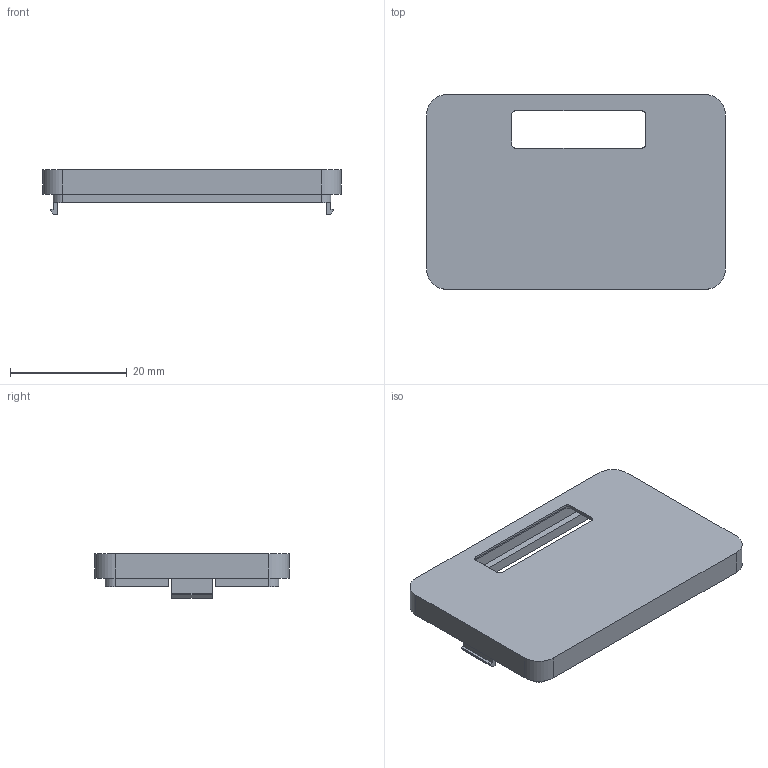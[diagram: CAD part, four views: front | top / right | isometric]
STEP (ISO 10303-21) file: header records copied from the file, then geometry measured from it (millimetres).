
FILE_DESCRIPTION(('Open CASCADE Model'),'2;1');
FILE_NAME('Open CASCADE Shape Model','2026-10-14T08:11:13',('Author'),( 'Open CASCADE'),'Open CASCADE STEP processor 7.9','Open CASCADE 7.9' ,'Unknown');
FILE_SCHEMA(('AUTOMOTIVE_DESIGN { 1 0 10303 214 1 1 1 1 }'));
Length unit declared in the file: millimetre
Products named in the file (1): Open CASCADE STEP translator 7.9 5
Bounding box: 51.3 x 33.4 x 7.65 mm (x, y, z)
Volume: 2861.5 mm3; surface area: 5334.1 mm2
Topology: 1 solids, 1 shells, 98 faces, 270 edges, 180 vertices
Faces by surface type: plane 66, cylinder 32
Entity records: 6572 total; most frequent: CARTESIAN_POINT 1267, DIRECTION 954, LINE 576, VECTOR 576, ORIENTED_EDGE 540, PCURVE 540, DEFINITIONAL_REPRESENTATION 540, EDGE_CURVE 270
